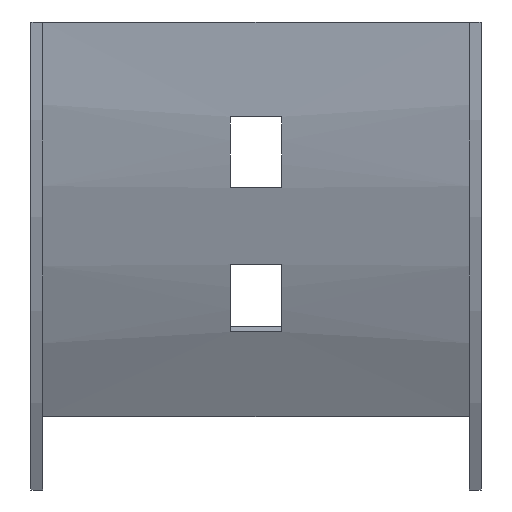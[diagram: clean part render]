
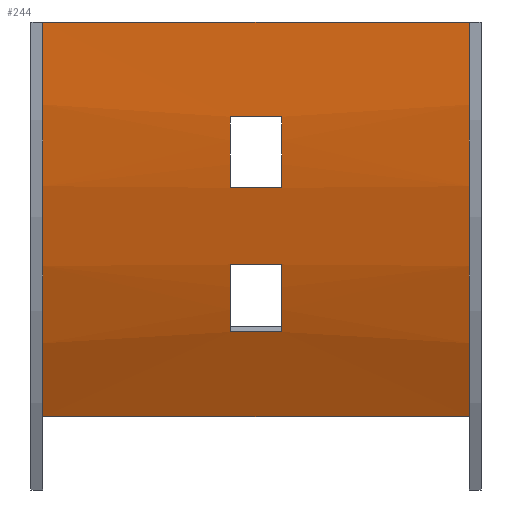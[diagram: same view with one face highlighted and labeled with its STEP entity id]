
A CAD part, front view. The second image highlights one B-rep face of the part: STEP entity #244.
In plain terms, the highlighted cylindrical face has radius 100 mm (diameter 200 mm), a partial arc.
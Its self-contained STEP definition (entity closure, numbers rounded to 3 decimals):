
#1 = DIRECTION ( 'NONE',  ( 0., 0., 1. ) ) ;
#2 = ORIENTED_EDGE ( 'NONE', *, *, #441, .T. ) ;
#5 = DIRECTION ( 'NONE',  ( 1., 0., 0. ) ) ;
#7 = CARTESIAN_POINT ( 'NONE',  ( 3.25, 3.329, -30.699 ) ) ;
#12 = AXIS2_PLACEMENT_3D ( 'NONE', #169, #351, #308 ) ;
#18 = DIRECTION ( 'NONE',  ( 0., 0., 1. ) ) ;
#19 = VERTEX_POINT ( 'NONE', #189 ) ;
#27 = DIRECTION ( 'NONE',  ( -1., 0., 0. ) ) ;
#29 = VERTEX_POINT ( 'NONE', #144 ) ;
#33 = VECTOR ( 'NONE', #380, 1000. ) ;
#40 = LINE ( 'NONE', #460, #295 ) ;
#41 = LINE ( 'NONE', #463, #33 ) ;
#60 = VERTEX_POINT ( 'NONE', #434 ) ;
#61 = DIRECTION ( 'NONE',  ( 0., 0., -1. ) ) ;
#81 = VECTOR ( 'NONE', #520, 1000. ) ;
#113 = CARTESIAN_POINT ( 'NONE',  ( -3.25, 98.5, 0. ) ) ;
#122 = CIRCLE ( 'NONE', #466, 100. ) ;
#123 = DIRECTION ( 'NONE',  ( -1., 0., 0. ) ) ;
#124 = ORIENTED_EDGE ( 'NONE', *, *, #497, .T. ) ;
#131 = FACE_OUTER_BOUND ( 'NONE', #262, .T. ) ;
#132 = CIRCLE ( 'NONE', #155, 100. ) ;
#141 = VERTEX_POINT ( 'NONE', #401 ) ;
#144 = CARTESIAN_POINT ( 'NONE',  ( -27., -1.5, 0. ) ) ;
#155 = AXIS2_PLACEMENT_3D ( 'NONE', #253, #160, #61 ) ;
#158 = CARTESIAN_POINT ( 'NONE',  ( -3.25, 0.73, -21. ) ) ;
#160 = DIRECTION ( 'NONE',  ( -1., 0., 0. ) ) ;
#166 = ORIENTED_EDGE ( 'NONE', *, *, #382, .T. ) ;
#168 = VERTEX_POINT ( 'NONE', #312 ) ;
#169 = CARTESIAN_POINT ( 'NONE',  ( 28.5, 98.5, 0. ) ) ;
#171 = EDGE_LOOP ( 'NONE', ( #305, #296, #166, #124 ) ) ;
#173 = AXIS2_PLACEMENT_3D ( 'NONE', #599, #123, #353 ) ;
#174 = DIRECTION ( 'NONE',  ( -1., 0., 0. ) ) ;
#183 = EDGE_CURVE ( 'NONE', #19, #60, #274, .T. ) ;
#184 = FACE_BOUND ( 'NONE', #171, .T. ) ;
#186 = CARTESIAN_POINT ( 'NONE',  ( 28.5, 3.329, -30.699 ) ) ;
#189 = CARTESIAN_POINT ( 'NONE',  ( 3.25, 6.523, -39.246 ) ) ;
#190 = EDGE_CURVE ( 'NONE', #600, #574, #40, .T. ) ;
#197 = DIRECTION ( 'NONE',  ( 0., 0., 1. ) ) ;
#203 = CIRCLE ( 'NONE', #541, 100. ) ;
#212 = VECTOR ( 'NONE', #5, 1000. ) ;
#219 = CARTESIAN_POINT ( 'NONE',  ( -3.25, 3.329, -30.699 ) ) ;
#224 = CARTESIAN_POINT ( 'NONE',  ( 27., -1.5, 0. ) ) ;
#225 = VERTEX_POINT ( 'NONE', #219 ) ;
#229 = CARTESIAN_POINT ( 'NONE',  ( -27., 98.5, 0. ) ) ;
#234 = LINE ( 'NONE', #186, #212 ) ;
#238 = EDGE_CURVE ( 'NONE', #168, #29, #203, .T. ) ;
#244 = ADVANCED_FACE ( 'NONE', ( #588, #131, #184 ), #502, .T. ) ;
#245 = CARTESIAN_POINT ( 'NONE',  ( 3.25, 0.73, -21. ) ) ;
#251 = CIRCLE ( 'NONE', #378, 100. ) ;
#253 = CARTESIAN_POINT ( 'NONE',  ( 3.25, 98.5, 0. ) ) ;
#258 = CARTESIAN_POINT ( 'NONE',  ( 27., 11.897, -50. ) ) ;
#259 = VERTEX_POINT ( 'NONE', #224 ) ;
#262 = EDGE_LOOP ( 'NONE', ( #596, #556, #603, #2 ) ) ;
#267 = EDGE_CURVE ( 'NONE', #60, #225, #277, .T. ) ;
#274 = LINE ( 'NONE', #449, #483 ) ;
#277 = CIRCLE ( 'NONE', #173, 100. ) ;
#279 = EDGE_LOOP ( 'NONE', ( #551, #332, #293, #577 ) ) ;
#281 = DIRECTION ( 'NONE',  ( -1., 0., 0. ) ) ;
#293 = ORIENTED_EDGE ( 'NONE', *, *, #565, .F. ) ;
#295 = VECTOR ( 'NONE', #597, 1000. ) ;
#296 = ORIENTED_EDGE ( 'NONE', *, *, #267, .T. ) ;
#299 = DIRECTION ( 'NONE',  ( 1., 0., 0. ) ) ;
#300 = VERTEX_POINT ( 'NONE', #550 ) ;
#301 = LINE ( 'NONE', #258, #566 ) ;
#305 = ORIENTED_EDGE ( 'NONE', *, *, #183, .T. ) ;
#308 = DIRECTION ( 'NONE',  ( 0., 0., 1. ) ) ;
#312 = CARTESIAN_POINT ( 'NONE',  ( -27., 11.897, -50. ) ) ;
#326 = CARTESIAN_POINT ( 'NONE',  ( -3.25, -0.777, -12. ) ) ;
#332 = ORIENTED_EDGE ( 'NONE', *, *, #552, .F. ) ;
#333 = EDGE_CURVE ( 'NONE', #300, #168, #301, .T. ) ;
#334 = LINE ( 'NONE', #572, #81 ) ;
#351 = DIRECTION ( 'NONE',  ( -1., 0., 0. ) ) ;
#353 = DIRECTION ( 'NONE',  ( 0., 0., -1. ) ) ;
#378 = AXIS2_PLACEMENT_3D ( 'NONE', #561, #281, #197 ) ;
#380 = DIRECTION ( 'NONE',  ( -1., 0., 0. ) ) ;
#382 = EDGE_CURVE ( 'NONE', #225, #414, #234, .T. ) ;
#401 = CARTESIAN_POINT ( 'NONE',  ( 3.25, -0.777, -12. ) ) ;
#414 = VERTEX_POINT ( 'NONE', #7 ) ;
#415 = DIRECTION ( 'NONE',  ( 0., 0., 1. ) ) ;
#426 = EDGE_CURVE ( 'NONE', #300, #259, #251, .T. ) ;
#434 = CARTESIAN_POINT ( 'NONE',  ( -3.25, 6.523, -39.246 ) ) ;
#441 = EDGE_CURVE ( 'NONE', #259, #29, #41, .T. ) ;
#449 = CARTESIAN_POINT ( 'NONE',  ( 28.5, 6.523, -39.246 ) ) ;
#460 = CARTESIAN_POINT ( 'NONE',  ( 28.5, 0.73, -21. ) ) ;
#463 = CARTESIAN_POINT ( 'NONE',  ( 27., -1.5, 0. ) ) ;
#466 = AXIS2_PLACEMENT_3D ( 'NONE', #113, #299, #18 ) ;
#471 = DIRECTION ( 'NONE',  ( 1., 0., 0. ) ) ;
#475 = CIRCLE ( 'NONE', #607, 100. ) ;
#483 = VECTOR ( 'NONE', #27, 1000. ) ;
#486 = VERTEX_POINT ( 'NONE', #326 ) ;
#497 = EDGE_CURVE ( 'NONE', #414, #19, #475, .T. ) ;
#502 = CYLINDRICAL_SURFACE ( 'NONE', #12, 100. ) ;
#515 = CARTESIAN_POINT ( 'NONE',  ( 3.25, 98.5, 0. ) ) ;
#520 = DIRECTION ( 'NONE',  ( -1., 0., 0. ) ) ;
#541 = AXIS2_PLACEMENT_3D ( 'NONE', #229, #549, #415 ) ;
#549 = DIRECTION ( 'NONE',  ( -1., 0., 0. ) ) ;
#550 = CARTESIAN_POINT ( 'NONE',  ( 27., 11.897, -50. ) ) ;
#551 = ORIENTED_EDGE ( 'NONE', *, *, #598, .F. ) ;
#552 = EDGE_CURVE ( 'NONE', #141, #486, #334, .T. ) ;
#556 = ORIENTED_EDGE ( 'NONE', *, *, #333, .F. ) ;
#561 = CARTESIAN_POINT ( 'NONE',  ( 27., 98.5, 0. ) ) ;
#565 = EDGE_CURVE ( 'NONE', #574, #141, #132, .T. ) ;
#566 = VECTOR ( 'NONE', #174, 1000. ) ;
#572 = CARTESIAN_POINT ( 'NONE',  ( 28.5, -0.777, -12. ) ) ;
#574 = VERTEX_POINT ( 'NONE', #245 ) ;
#577 = ORIENTED_EDGE ( 'NONE', *, *, #190, .F. ) ;
#588 = FACE_BOUND ( 'NONE', #279, .T. ) ;
#596 = ORIENTED_EDGE ( 'NONE', *, *, #238, .F. ) ;
#597 = DIRECTION ( 'NONE',  ( 1., 0., 0. ) ) ;
#598 = EDGE_CURVE ( 'NONE', #486, #600, #122, .T. ) ;
#599 = CARTESIAN_POINT ( 'NONE',  ( -3.25, 98.5, 0. ) ) ;
#600 = VERTEX_POINT ( 'NONE', #158 ) ;
#603 = ORIENTED_EDGE ( 'NONE', *, *, #426, .T. ) ;
#607 = AXIS2_PLACEMENT_3D ( 'NONE', #515, #471, #1 ) ;
